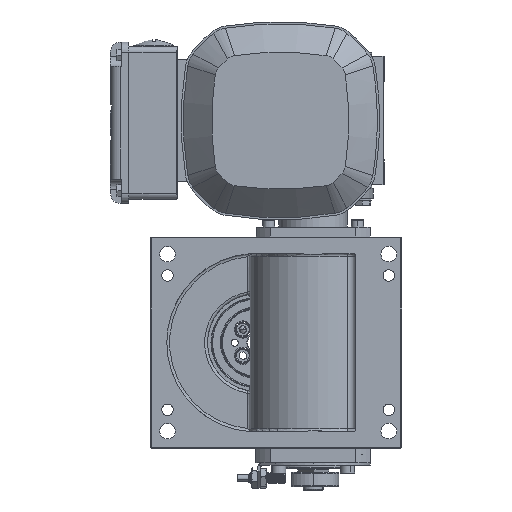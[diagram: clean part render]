
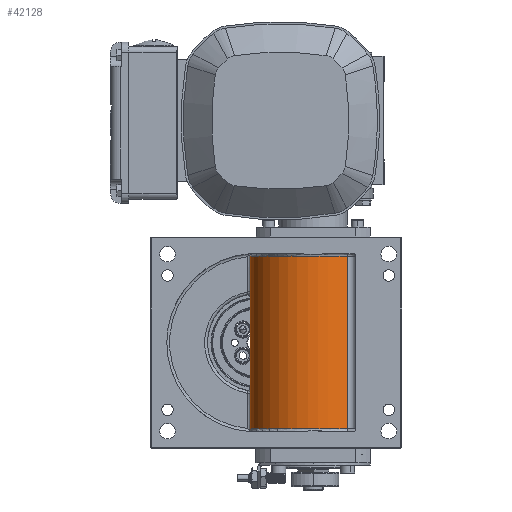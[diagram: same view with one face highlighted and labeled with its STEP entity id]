
A CAD part, front view. The second image highlights one B-rep face of the part: STEP entity #42128.
In plain terms, the highlighted cylindrical face has radius 44 mm (diameter 88 mm), a partial arc.
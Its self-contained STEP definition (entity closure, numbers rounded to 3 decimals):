
#2861 = DIRECTION ( 'NONE',  ( 0., 0., 1. ) ) ;
#3182 = EDGE_LOOP ( 'NONE', ( #39270, #52502, #22204, #30615 ) ) ;
#3202 = CIRCLE ( 'NONE', #8233, 44. ) ;
#3455 = DIRECTION ( 'NONE',  ( 1., 0., 0. ) ) ;
#5928 = VERTEX_POINT ( 'NONE', #24975 ) ;
#8233 = AXIS2_PLACEMENT_3D ( 'NONE', #56796, #2861, #3455 ) ;
#8678 = DIRECTION ( 'NONE',  ( 0., 0., -1. ) ) ;
#10251 = EDGE_CURVE ( 'NONE', #37314, #26833, #55446, .T. ) ;
#12514 = CARTESIAN_POINT ( 'NONE',  ( 25.209, -58.224, 101.009 ) ) ;
#13044 = DIRECTION ( 'NONE',  ( -1., 0., 0. ) ) ;
#21426 = AXIS2_PLACEMENT_3D ( 'NONE', #40003, #53895, #25803 ) ;
#22204 = ORIENTED_EDGE ( 'NONE', *, *, #10251, .T. ) ;
#24454 = VECTOR ( 'NONE', #8678, 1000. ) ;
#24975 = CARTESIAN_POINT ( 'NONE',  ( -42.624, -21.238, -19.791 ) ) ;
#25803 = DIRECTION ( 'NONE',  ( 1., 0., 0. ) ) ;
#26833 = VERTEX_POINT ( 'NONE', #12514 ) ;
#30615 = ORIENTED_EDGE ( 'NONE', *, *, #37412, .T. ) ;
#32024 = CARTESIAN_POINT ( 'NONE',  ( -42.624, -21.238, 101.009 ) ) ;
#37314 = VERTEX_POINT ( 'NONE', #46648 ) ;
#37412 = EDGE_CURVE ( 'NONE', #26833, #58753, #52731, .T. ) ;
#37496 = EDGE_CURVE ( 'NONE', #58753, #5928, #41209, .T. ) ;
#39270 = ORIENTED_EDGE ( 'NONE', *, *, #37496, .T. ) ;
#40003 = CARTESIAN_POINT ( 'NONE',  ( 1.376, -21.238, 101.009 ) ) ;
#40011 = VECTOR ( 'NONE', #51639, 1000. ) ;
#41209 = LINE ( 'NONE', #56681, #24454 ) ;
#41454 = DIRECTION ( 'NONE',  ( 0., 0., -1. ) ) ;
#42128 = ADVANCED_FACE ( 'NONE', ( #50952 ), #55698, .T. ) ;
#45929 = AXIS2_PLACEMENT_3D ( 'NONE', #60143, #41454, #13044 ) ;
#46648 = CARTESIAN_POINT ( 'NONE',  ( 25.209, -58.224, -19.791 ) ) ;
#50952 = FACE_OUTER_BOUND ( 'NONE', #3182, .T. ) ;
#51639 = DIRECTION ( 'NONE',  ( 0., 0., 1. ) ) ;
#52502 = ORIENTED_EDGE ( 'NONE', *, *, #60621, .T. ) ;
#52731 = CIRCLE ( 'NONE', #21426, 44. ) ;
#53895 = DIRECTION ( 'NONE',  ( 0., 0., -1. ) ) ;
#55446 = LINE ( 'NONE', #56085, #40011 ) ;
#55698 = CYLINDRICAL_SURFACE ( 'NONE', #45929, 44. ) ;
#56085 = CARTESIAN_POINT ( 'NONE',  ( 25.209, -58.224, 103.009 ) ) ;
#56681 = CARTESIAN_POINT ( 'NONE',  ( -42.624, -21.238, 103.009 ) ) ;
#56796 = CARTESIAN_POINT ( 'NONE',  ( 1.376, -21.238, -19.791 ) ) ;
#58753 = VERTEX_POINT ( 'NONE', #32024 ) ;
#60143 = CARTESIAN_POINT ( 'NONE',  ( 1.376, -21.238, 103.009 ) ) ;
#60621 = EDGE_CURVE ( 'NONE', #5928, #37314, #3202, .T. ) ;
